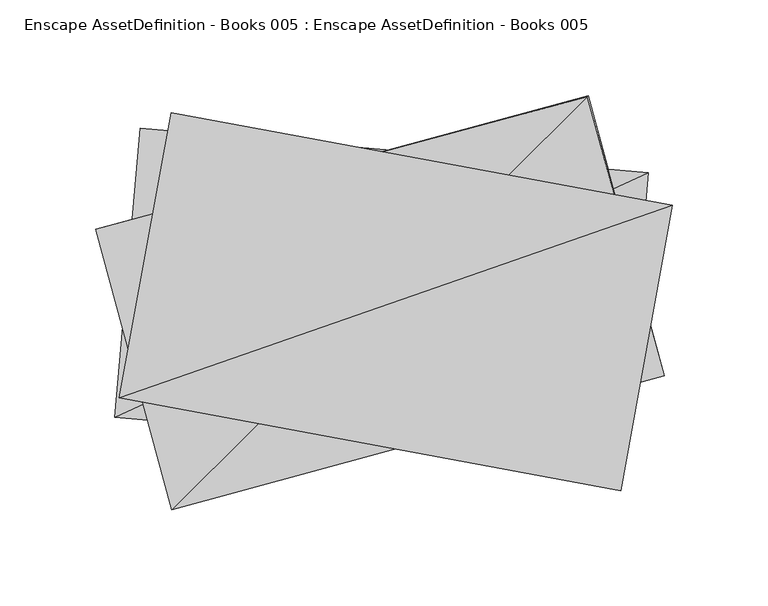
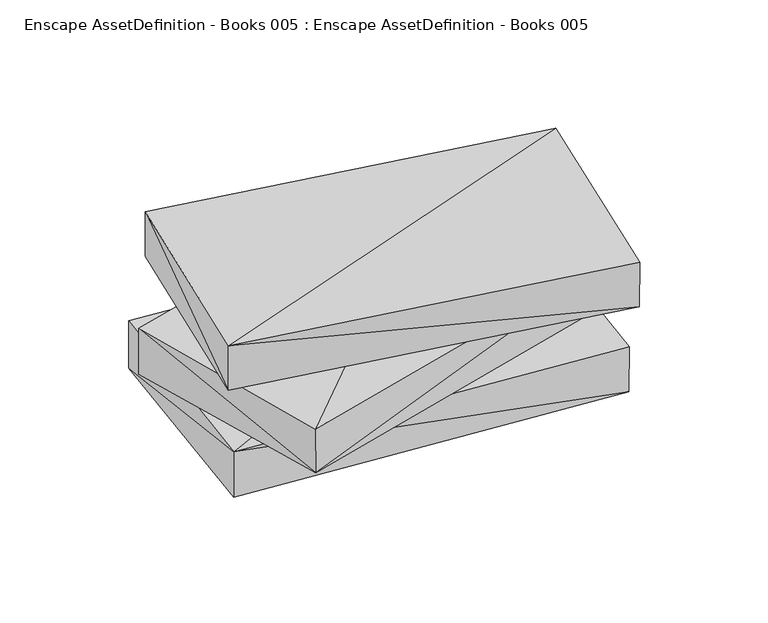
"""IFC4 building model written with IfcOpenShell, lengths in millimetres: geographic element geometry, Enscape AssetDefinition - Books 005 : Enscape AssetDefinition - Books 005."""

from ifc_helpers import new_model, si_unit, origin, place, context, project, spatial, faceted_brep, source, transform, mapped, element, save


def enscape_assetdefinition_books_005_enscape_assetdefinition_b10d53aa(model_context):
    return source(origin(), model_context, "Body", "Brep", [
        faceted_brep([(142.2518641, 89.6815881, 0.0), (-123.7117127, 112.9495576, 0.0), (142.2518641, 89.6815881, 34.0371281), (-123.7117127, 112.9495576, 35.3876464), (-136.9368136, -38.2227413, 34.0371281), (-136.9368136, -38.2227413, 0.0), (128.5976022, -61.5967549, 0.0), (128.9957464, -61.8338436, 33.6939953)], [[[0, 1, 2]], [[3, 1, 4]], [[2, 1, 3]], [[4, 1, 5]], [[5, 1, 6]], [[6, 1, 0]], [[0, 2, 6]], [[3, 4, 2]], [[7, 2, 4]], [[6, 2, 7]], [[5, 6, 4]], [[4, 6, 7]]]),
        faceted_brep([(154.8177004, 72.6990402, 72.7470592), (154.8167169, 72.6990402, 105.9548631), (127.4801642, -76.2894228, 72.7470592), (-107.2923765, 121.2167442, 72.9631409), (-107.2923765, 121.2167442, 105.9548631), (-134.6789449, -28.0418154, 105.9548631), (127.853319, -76.5625238, 105.9548631), (-134.6789449, -28.0418154, 72.9631409)], [[[0, 1, 2]], [[0, 3, 1]], [[4, 5, 1]], [[2, 1, 6]], [[1, 3, 4]], [[1, 5, 6]], [[6, 5, 2]], [[2, 5, 7]], [[2, 7, 0]], [[0, 7, 3]], [[3, 7, 4]], [[4, 7, 5]]]),
        faceted_brep([(110.6816903, 130.1251799, 35.8058102), (110.388577, 129.6129823, 70.0590238), (150.4710317, -16.3152926, 37.1563323), (-146.9556838, 60.1231903, 69.8429346), (-107.0762947, -86.6494179, 69.4998056), (150.4710317, -16.3152926, 69.8429346), (-146.9556838, 60.1231903, 35.8058102), (-106.7271605, -86.3462985, 36.9412452)], [[[0, 1, 2]], [[3, 4, 1]], [[2, 1, 5]], [[1, 4, 5]], [[0, 6, 1]], [[1, 6, 3]], [[5, 7, 2]], [[2, 7, 0]], [[0, 7, 6]], [[6, 7, 3]], [[3, 7, 4]], [[4, 7, 5]]]),
    ])


if __name__ == "__main__":
    model = new_model("IFC4")
    model_context = context("Model", 3, world=origin())
    ifc_project = project(units=[si_unit("LENGTHUNIT", "METRE", prefix="MILLI")], contexts=[model_context])
    site = spatial("IfcSite", under=ifc_project)
    building = spatial("IfcBuilding", under=site)
    placement = place(None, origin())
    enscape_assetdefinition_books_005_enscape_assetdefinition_shape = enscape_assetdefinition_books_005_enscape_assetdefinition_b10d53aa(model_context)
    element("IfcGeographicElement", 1, ObjectType="Enscape AssetDefinition - Books 005 : Enscape AssetDefinition - Books 005", at=placement, inside=building, context=model_context, shape_type="MappedRepresentation", body=[
        mapped(enscape_assetdefinition_books_005_enscape_assetdefinition_shape, transform((0.0, 0.0, 0.0), x_axis=(1.0, 0.0, 0.0), y_axis=(0.0, 1.0, 0.0), z_axis=(0.0, 0.0, 1.0))),
    ])
    save(model, "model.ifc")
